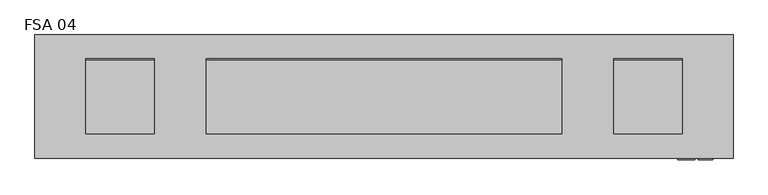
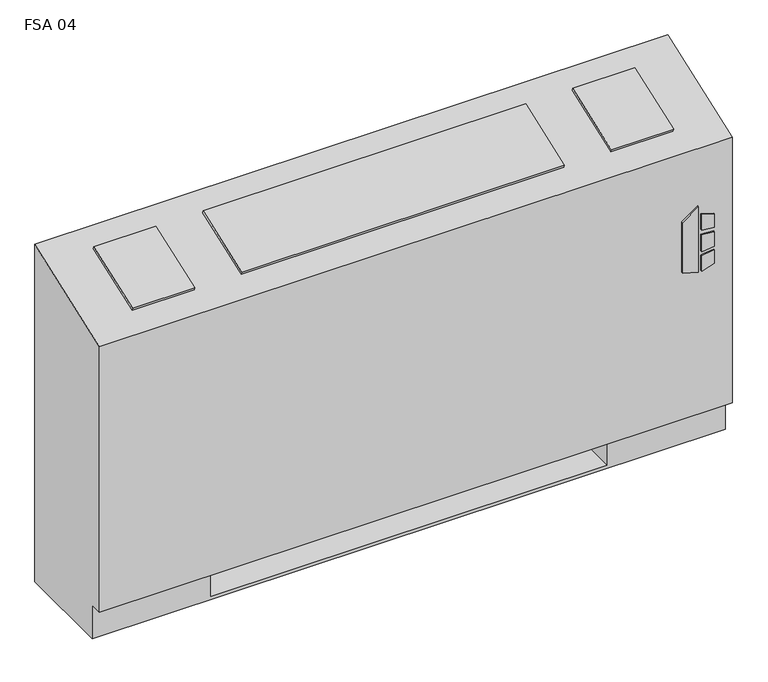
"""IFC4 building model written with IfcOpenShell, lengths in millimetres: proxy geometry, Vertical_Fan_Coil_Unit_-_FSA_-_IEC_-_4-Pipe_TS-FR_RH_2022 : FSA 04."""

import ifcopenshell
import ifcopenshell.guid

model = None  # the IFC model being written
_history = None  # IfcOwnerHistory: only IFC2X3 demands one
_inside = {}  # id of a spatial element -> (the spatial element, [elements in it])
_under = {}  # id of a project, library or spatial element -> (it, [spatial elements below it])
_declared = {}  # id of a project -> (the project, [libraries it declares])
_typed = {}  # id of a type object -> (the type object, [elements of that type])
_made_of = {}  # id of a material, layer set ... -> (it, [elements and type objects made of it])


def new_model(schema):
    """Start an empty IFC model of exactly this schema.

    Asked for "IFC4X3", IfcOpenShell would pick the latest addendum, in which some entities
    have other attributes; the version numbers below select the first issue.
    IFC2X3 requires an IfcOwnerHistory on every rooted entity: one is made here for all.
    """
    global model, _history
    if schema == "IFC4X3":
        model = ifcopenshell.file(schema_version=(4, 3, 0, 0))
    else:
        model = ifcopenshell.file(schema=schema)
    _inside.clear()
    _under.clear()
    _declared.clear()
    _typed.clear()
    _made_of.clear()
    _history = None
    if model.schema == "IFC2X3":
        org = make("IfcOrganization", Name="unknown")
        user = make(
            "IfcPersonAndOrganization",
            ThePerson=make("IfcPerson", FamilyName="unknown"),
            TheOrganization=org,
        )
        app = make(
            "IfcApplication",
            ApplicationDeveloper=org,
            Version="unknown",
            ApplicationFullName="unknown",
            ApplicationIdentifier="unknown",
        )
        _history = make(
            "IfcOwnerHistory",
            OwningUser=user,
            OwningApplication=app,
            ChangeAction="ADDED",
            CreationDate=0,
        )
    return model


def make(cls, **values):
    """One entity of the class cls with the attributes given. An attribute that is None is left unset."""
    return model.create_entity(
        cls, **{name: value for name, value in values.items() if value is not None}
    )


def rooted(cls, **values):
    """An entity with a GlobalId (a new one), such as an element, a storey or a relation."""
    return make(cls, GlobalId=ifcopenshell.guid.new(), OwnerHistory=_history, **values)


def si_unit(unit_type, name, prefix=None):
    """IfcSIUnit, for example si_unit("LENGTHUNIT", "METRE", prefix="MILLI")."""
    return make("IfcSIUnit", UnitType=unit_type, Prefix=prefix, Name=name)


def assignment(units):
    """IfcUnitAssignment: the units of a project."""
    return None if units is None else make("IfcUnitAssignment", Units=units)


def point(xyz):
    """IfcCartesianPoint."""
    return None if xyz is None else make("IfcCartesianPoint", Coordinates=xyz)


def direction(xyz):
    """IfcDirection."""
    return None if xyz is None else make("IfcDirection", DirectionRatios=xyz)


def frame(location, z_axis=None, x_axis=None):
    """IfcAxis2Placement3D, a coordinate frame: its origin and axes. An axis left out is left unset."""
    return make(
        "IfcAxis2Placement3D",
        Location=point(location),
        Axis=direction(z_axis),
        RefDirection=direction(x_axis),
    )


def frame_2d(location, x_axis=None):
    """IfcAxis2Placement2D, a coordinate frame in the plane: its origin and x axis."""
    return make(
        "IfcAxis2Placement2D", Location=point(location), RefDirection=direction(x_axis)
    )


def origin():
    """The frame at (0, 0, 0) with its axes left unset."""
    return frame((0.0, 0.0, 0.0))


def place(relative_to, where):
    """IfcLocalPlacement: puts the frame where relative to a parent placement (None: the world)."""
    return make(
        "IfcLocalPlacement", PlacementRelTo=relative_to, RelativePlacement=where
    )


def context(
    kind, dimensions, precision=None, world=None, true_north=None, identifier=None
):
    """IfcGeometricRepresentationContext, for example the 3D "Model" context."""
    return make(
        "IfcGeometricRepresentationContext",
        ContextIdentifier=identifier,
        ContextType=kind,
        CoordinateSpaceDimension=dimensions,
        Precision=precision,
        WorldCoordinateSystem=world,
        TrueNorth=true_north,
    )


def project(units=None, contexts=None):
    """IfcProject with its units and contexts."""
    return rooted(
        "IfcProject",
        Name="project",
        RepresentationContexts=contexts,
        UnitsInContext=assignment(units),
    )


def spatial(cls, under=None, at=None, **own):
    """A site, building, storey or space (cls), placed at a placement, below another one or the project."""
    s = rooted(cls, ObjectPlacement=at, **own)
    if under is not None:
        _under.setdefault(under.id(), (under, []))[1].append(s)
    return s


def polyline(points):
    """IfcPolyline through the points."""
    return make("IfcPolyline", Points=[point(p) for p in points])


def circle_curve(where, radius):
    """IfcCircle in the frame where."""
    return make("IfcCircle", Position=where, Radius=radius)


def trimmed(basis, trim1, trim2, sense, master):
    """IfcTrimmedCurve: the piece of a basis curve between two trims."""
    return make(
        "IfcTrimmedCurve",
        BasisCurve=basis,
        Trim1=trim1,
        Trim2=trim2,
        SenseAgreement=sense,
        MasterRepresentation=master,
    )


def segment(curve, same_sense, transition):
    """IfcCompositeCurveSegment."""
    return make(
        "IfcCompositeCurveSegment",
        Transition=transition,
        SameSense=same_sense,
        ParentCurve=curve,
    )


def composite_curve(segments, self_intersect=None):
    """IfcCompositeCurve: segments joined end to end."""
    return make("IfcCompositeCurve", Segments=segments, SelfIntersect=self_intersect)


def outline(outer, holes=None, kind="AREA"):
    """IfcArbitraryClosedProfileDef: a profile drawn as a closed curve; with holes, ...WithVoids."""
    if holes is None:
        return make("IfcArbitraryClosedProfileDef", ProfileType=kind, OuterCurve=outer)
    return make(
        "IfcArbitraryProfileDefWithVoids",
        ProfileType=kind,
        OuterCurve=outer,
        InnerCurves=holes,
    )


def extrude(swept, where, along, depth):
    """IfcExtrudedAreaSolid: the profile swept, set in the frame where, extruded along a direction by depth."""
    return make(
        "IfcExtrudedAreaSolid",
        SweptArea=swept,
        Position=where,
        ExtrudedDirection=direction(along),
        Depth=depth,
    )


def shape(context_of_items, identifier, shape_type, items):
    """IfcShapeRepresentation: the items that make up one representation, for example the "Body"."""
    return make(
        "IfcShapeRepresentation",
        ContextOfItems=context_of_items,
        RepresentationIdentifier=identifier,
        RepresentationType=shape_type,
        Items=items,
    )


def source(mapping_origin, context_of_items, identifier, shape_type, items):
    """IfcRepresentationMap: a shape defined once, which mapped items show again and again."""
    return make(
        "IfcRepresentationMap",
        MappingOrigin=mapping_origin,
        MappedRepresentation=shape(context_of_items, identifier, shape_type, items),
    )


def transform(
    local_origin,
    x_axis=None,
    y_axis=None,
    z_axis=None,
    scale=None,
    scale2=None,
    scale3=None,
    uniform=True,
):
    """IfcCartesianTransformationOperator3D, or its non-uniform kind. x_axis, y_axis, z_axis: its Axis1, 2, 3."""
    if uniform:
        return make(
            "IfcCartesianTransformationOperator3D",
            Axis1=direction(x_axis),
            Axis2=direction(y_axis),
            LocalOrigin=point(local_origin),
            Scale=scale,
            Axis3=direction(z_axis),
        )
    return make(
        "IfcCartesianTransformationOperator3DnonUniform",
        Axis1=direction(x_axis),
        Axis2=direction(y_axis),
        LocalOrigin=point(local_origin),
        Scale=scale,
        Axis3=direction(z_axis),
        Scale2=scale2,
        Scale3=scale3,
    )


def mapped(mapping_source, mapping_target):
    """IfcMappedItem: shows the shape of a source again, moved by a transform."""
    return make(
        "IfcMappedItem", MappingSource=mapping_source, MappingTarget=mapping_target
    )


def made_of(thing, what):
    """Note that an element or type object is made of a material, layer set ...; save() writes the relation."""
    if what is not None:
        _made_of.setdefault(what.id(), (what, []))[1].append(thing)
    return thing


def element(
    cls,
    number,
    at=None,
    inside=None,
    cuts=None,
    type_object=None,
    material=None,
    context=None,
    identifier="Body",
    shape_type=None,
    held_by="IfcProductDefinitionShape",
    body=None,
    shapes=None,
    **own,
):
    """One element of the class cls, such as IfcWall. Its Tag is "e" and its number.

    at: its placement. inside: the storey or other place that contains it. cuts: it is an
    opening in that element (IfcRelVoidsElement). A single representation is given by context,
    identifier, shape_type and body (its items); several are given by shapes. held_by: the class
    of the entity that holds the representations. save() writes the other relations.
    """
    e = rooted(cls, Tag="e%d" % number, ObjectPlacement=at, **own)
    if body is not None:
        shapes = [shape(context, identifier, shape_type, body)]
    if shapes is not None:
        e.Representation = make(held_by, Representations=shapes)
    if inside is not None:
        _inside.setdefault(inside.id(), (inside, []))[1].append(e)
    if cuts is not None:
        rooted(
            "IfcRelVoidsElement", RelatingBuildingElement=cuts, RelatedOpeningElement=e
        )
    if type_object is not None:
        _typed.setdefault(type_object.id(), (type_object, []))[1].append(e)
    return made_of(e, material)


def aggregate(whole, parts):
    """IfcRelAggregates: a whole, such as a stair, and the parts it consists of."""
    return rooted("IfcRelAggregates", RelatingObject=whole, RelatedObjects=parts)


def save(model, path):
    """Write the relations noted so far, then the file.

    IfcRelAggregates (storeys below a building ...), IfcRelContainedInSpatialStructure (elements
    in a storey), IfcRelDefinesByType, IfcRelAssociatesMaterial and IfcRelDeclares: one each for
    every whole, place, type object, material and project.
    """
    for whole, parts in _under.values():
        aggregate(whole, parts)
    for where, things in _inside.values():
        rooted(
            "IfcRelContainedInSpatialStructure",
            RelatedElements=things,
            RelatingStructure=where,
        )
    for kind, things in _typed.values():
        rooted("IfcRelDefinesByType", RelatedObjects=things, RelatingType=kind)
    for what, things in _made_of.values():
        rooted("IfcRelAssociatesMaterial", RelatedObjects=things, RelatingMaterial=what)
    for by, libraries in _declared.values():
        rooted("IfcRelDeclares", RelatingContext=by, RelatedDefinitions=libraries)
    model.write(path)


def plane_surface(at):
    """IfcPlane: the flat surface through the origin of the frame at, square to its z axis."""
    return make("IfcPlane", Position=at)


def revolved_surface(curve, axis_point, axis_direction):
    """IfcSurfaceOfRevolution: the curve turned about the line through axis_point along axis_direction."""
    return make(
        "IfcSurfaceOfRevolution",
        SweptCurve=make("IfcArbitraryOpenProfileDef", ProfileType="CURVE", Curve=curve),
        AxisPosition=make("IfcAxis1Placement", Location=point(axis_point), Axis=direction(axis_direction)),
    )


def advanced_brep(points, edges, surfaces, faces):
    """IfcAdvancedBrep: a solid bounded by faces that lie on surfaces and meet in shared edges.

    An edge is (start, end): straight between two places in points (the first is 0);
    or (start, end, curve); or (start, end, curve, False) where it runs against its curve.
    A face is (place in surfaces, loops), or (place, loops, False) where it looks against
    its surface's normal. A loop lists edges by number (the first is 1), with a minus sign
    where the edge is run from its end to its start. The first loop is the outer one.
    """
    corners = [point(p) for p in points]
    vertices = [make("IfcVertexPoint", VertexGeometry=c) for c in corners]
    made = []
    for start, end, *more in edges:
        made.append(
            make(
                "IfcEdgeCurve",
                EdgeStart=vertices[start],
                EdgeEnd=vertices[end],
                EdgeGeometry=more[0] if more else make("IfcPolyline", Points=[corners[start], corners[end]]),
                SameSense=more[1] if len(more) > 1 else True,
            )
        )
    hull = []
    for where, loops, *sense in faces:
        bounds = []
        for j, loop in enumerate(loops):
            ring = [make("IfcOrientedEdge", EdgeElement=made[abs(k) - 1], Orientation=k > 0) for k in loop]
            bounds.append(
                make(
                    "IfcFaceOuterBound" if j == 0 else "IfcFaceBound",
                    Bound=make("IfcEdgeLoop", EdgeList=ring),
                    Orientation=True,
                )
            )
        hull.append(make("IfcAdvancedFace", Bounds=bounds, FaceSurface=surfaces[where], SameSense=sense[0] if sense else True))
    return make("IfcAdvancedBrep", Outer=make("IfcClosedShell", CfsFaces=hull))


def fsa_04_2e9a2c6c(model_context):
    return source(origin(), model_context, "Body", "SolidModel", [
        extrude(outline(polyline([(391.6086829, 696.9868862), (381.6606126, 729.1602728), (523.831537, 729.1602728), (500.8095309, 696.9868862), (391.6086829, 696.9868862)])), frame((0.0, 12.7, 0.0), z_axis=(0.0, 1.0, 0.0), x_axis=(0.0, 0.0, 1.0)), (0.0, 0.0, 1.0), 3.175),
        extrude(outline(polyline([(470.6079683, 735.9186058), (467.4055757, 762.0), (496.6344168, 762.0), (504.6988318, 735.9186058), (470.6079683, 735.9186058)])), frame((0.0, 12.7, 0.0), z_axis=(0.0, 1.0, 0.0), x_axis=(0.0, 0.0, 1.0)), (0.0, 0.0, 1.0), 3.175),
        extrude(outline(polyline([(418.7444414, 762.0), (415.0789404, 735.9186058), (381.6606126, 735.9186058), (390.2948498, 762.0), (418.7444414, 762.0)])), frame((0.0, 12.7, 0.0), z_axis=(0.0, 1.0, 0.0), x_axis=(0.0, 0.0, 1.0)), (0.0, 0.0, 1.0), 3.175),
        extrude(outline(polyline([(458.0596028, 762.0), (460.3414292, 735.9186058), (424.4038806, 735.9186058), (427.1451456, 762.0), (458.0596028, 762.0)])), frame((0.0, 12.7, 0.0), z_axis=(0.0, 1.0, 0.0), x_axis=(0.0, 0.0, 1.0)), (0.0, 0.0, 1.0), 3.175),
        extrude(outline(polyline([(-374.65, 81.534), (-374.65, 223.266), (-254.0, 223.266), (-254.0, 81.534), (-374.65, 81.534)])), frame((0.0, 0.0, 327.025), z_axis=(0.0, 0.0, 1.0), x_axis=(1.0, 0.0, 0.0)), (0.0, 0.0, 1.0), 260.35),
        extrude(outline(composite_curve([segment(trimmed(circle_curve(frame_2d((622.3, 130.175)), 9.525), [point((612.775, 130.175))], [point((631.825, 130.175))], False, "CARTESIAN"), True, "CONTINUOUS"), segment(trimmed(circle_curve(frame_2d((622.3, 130.175)), 9.525), [point((631.825, 130.175))], [point((612.775, 130.175))], False, "CARTESIAN"), True, "CONTINUOUS")], self_intersect=False)), frame((0.0, 0.0, 101.6), z_axis=(0.0, 0.0, 1.0), x_axis=(1.0, 0.0, 0.0)), (0.0, 0.0, 1.0), 25.4),
        extrude(outline(polyline([(723.9, 196.85), (723.9, 63.5), (558.8, 63.5), (558.8, 196.85), (723.9, 196.85)])), frame((0.0, 0.0, 127.0), z_axis=(0.0, 0.0, 1.0), x_axis=(1.0, 0.0, 0.0)), (0.0, 0.0, 1.0), 50.8),
        extrude(outline(polyline([(0.0, -146.0500001), (0.0, 0.0), (127.0, 0.0), (127.0, -146.0500001), (0.0, -146.0500001)])), frame((-401.193, 200.4217127, 714.3418685), z_axis=(0.0, -0.3396444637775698, 0.9405538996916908), x_axis=(1.0, 0.0, 0.0)), (0.0, 0.0, 1.0), 6.35),
        extrude(outline(polyline([(0.0, -146.0500001), (0.0, 0.0), (660.4, 0.0), (660.4, -146.0500001), (0.0, -146.0500001)])), frame((482.6, 63.0538156, 664.7367945), z_axis=(0.0, -0.33964446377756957, 0.9405538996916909), x_axis=(-1.0, 0.0, 0.0)), (0.0, 0.0, 1.0), 6.35),
        extrude(outline(polyline([(0.0, -146.0500001), (0.0, 0.0), (127.0, 0.0), (127.0, -146.0500001), (0.0, -146.0500001)])), frame((705.993, 63.0538156, 664.7367945), z_axis=(0.0, -0.3396444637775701, 0.9405538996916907), x_axis=(-1.0, 0.0, 0.0)), (0.0, 0.0, 1.0), 6.35),
        extrude(outline(composite_curve([segment(trimmed(circle_curve(frame_2d((117.475, 472.44)), 7.9375), [point((117.475, 480.3775))], [point((117.475, 464.5025))], False, "CARTESIAN"), True, "CONTINUOUS"), segment(trimmed(circle_curve(frame_2d((117.475, 472.44)), 7.9375), [point((117.475, 464.5025))], [point((117.475, 480.3775))], False, "CARTESIAN"), True, "CONTINUOUS")], self_intersect=False)), frame((558.8, 0.0, 0.0), z_axis=(1.0, 0.0, 0.0), x_axis=(0.0, 1.0, 0.0)), (0.0, 0.0, 1.0), 50.8),
        extrude(outline(composite_curve([segment(trimmed(circle_curve(frame_2d((164.0586, 445.897)), 7.9375), [point((164.0586, 453.8345))], [point((164.0586, 437.9595))], False, "CARTESIAN"), True, "CONTINUOUS"), segment(trimmed(circle_curve(frame_2d((164.0586, 445.897)), 7.9375), [point((164.0586, 437.9595))], [point((164.0586, 453.8345))], False, "CARTESIAN"), True, "CONTINUOUS")], self_intersect=False)), frame((558.8, 0.0, 0.0), z_axis=(1.0, 0.0, 0.0), x_axis=(0.0, 1.0, 0.0)), (0.0, 0.0, 1.0), 50.8),
        extrude(outline(composite_curve([segment(trimmed(circle_curve(frame_2d((130.175, 554.99)), 7.9502), [point((130.175, 562.9402))], [point((130.175, 547.0398))], False, "CARTESIAN"), True, "CONTINUOUS"), segment(trimmed(circle_curve(frame_2d((130.175, 554.99)), 7.9502), [point((130.175, 547.0398))], [point((130.175, 562.9402))], False, "CARTESIAN"), True, "CONTINUOUS")], self_intersect=False)), frame((558.8, 0.0, 0.0), z_axis=(1.0, 0.0, 0.0), x_axis=(0.0, 1.0, 0.0)), (0.0, 0.0, 1.0), 50.8),
        extrude(outline(composite_curve([segment(trimmed(circle_curve(frame_2d((53.975, 416.56)), 7.9502), [point((53.975, 424.5102))], [point((53.975, 408.6098))], False, "CARTESIAN"), True, "CONTINUOUS"), segment(trimmed(circle_curve(frame_2d((53.975, 416.56)), 7.9502), [point((53.975, 408.6098))], [point((53.975, 424.5102))], False, "CARTESIAN"), True, "CONTINUOUS")], self_intersect=False)), frame((558.8, 0.0, 0.0), z_axis=(1.0, 0.0, 0.0), x_axis=(0.0, 1.0, 0.0)), (0.0, 0.0, 1.0), 50.8),
        advanced_brep(
        [(-495.3, 244.475, 0.0), (800.1, 244.475, 0.0), (800.1, 41.275, 0.0), (-495.3, 41.275, 0.0), (-495.3, 244.475, 730.25), (800.1, 244.475, 730.25), (558.8, 244.475, 73.025), (787.4, 244.475, 73.025), (787.4, 244.475, 654.05), (558.8, 244.475, 654.05), (558.8, 244.475, 414.8650565), (587.375, 244.475, 414.8650565), (587.375, 244.475, 385.2349435), (558.8, 244.475, 385.2349435), (558.8, 244.475, 287.3375), (587.375, 244.475, 287.3375), (587.375, 244.475, 258.7625), (558.8, 244.475, 258.7625), (558.8, 244.475, 141.2875), (587.375, 244.475, 141.2875), (587.375, 244.475, 112.7125), (558.8, 244.475, 112.7125), (-254.0, 244.475, 654.05), (-482.6, 244.475, 654.05), (-482.6, 244.475, 73.025), (-254.0, 244.475, 73.025), (-254.0, 244.475, 112.7125), (-282.575, 244.475, 112.7125), (-282.575, 244.475, 141.2875), (-254.0, 244.475, 141.2875), (-254.0, 244.475, 258.7625), (-282.575, 244.475, 258.7625), (-282.575, 244.475, 287.3375), (-254.0, 244.475, 287.3375), (-254.0, 244.475, 385.2349435), (-282.575, 244.475, 385.2349435), (-282.575, 244.475, 414.8650565), (-254.0, 244.475, 414.8650565), (577.0626, 244.475, 127.0), (565.9374, 244.475, 127.0), (577.0626, 244.475, 400.05), (565.9374, 244.475, 400.05), (577.0626, 244.475, 273.05), (565.9374, 244.475, 273.05), (-261.1374, 244.475, 127.0), (-272.2626, 244.475, 127.0), (-261.1374, 244.475, 273.05), (-272.2626, 244.475, 273.05), (-261.1374, 244.475, 400.05), (-272.2626, 244.475, 400.05), (-495.3, 41.275, 73.025), (-495.3, 15.875, 73.025), (-495.3, 15.875, 647.7), (800.1, 15.875, 73.025), (800.1, 15.875, 647.7), (800.1, 41.275, 73.025), (-254.0, 41.275, 73.025), (-254.0, 225.425, 73.025), (558.8, 225.425, 73.025), (558.8, 41.275, 73.025), (558.8, 41.275, 6.35), (-254.0, 41.275, 6.35), (558.8, 41.275, 654.05), (787.4, 41.275, 654.05), (787.4, 41.275, 73.025), (558.8, 41.275, 73.025), (-254.0, 41.275, 654.05), (-254.0, 41.275, 73.025), (-482.6, 41.275, 73.025), (-482.6, 41.275, 654.05), (558.8, 225.425, 73.025), (558.8, 238.125, 112.7125), (558.8, 238.125, 141.2875), (558.8, 238.125, 258.7625), (558.8, 238.125, 287.3375), (558.8, 238.125, 385.2349435), (558.8, 238.125, 414.8650565), (-254.0, 225.425, 73.025), (-254.0, 238.125, 414.8650565), (-254.0, 238.125, 385.2349435), (-254.0, 238.125, 287.3375), (-254.0, 238.125, 258.7625), (-254.0, 238.125, 141.2875), (-254.0, 238.125, 112.7125), (-254.0, 225.425, 6.35), (558.8, 225.425, 6.35), (587.375, 238.125, 112.7125), (587.375, 238.125, 141.2875), (565.9374, 238.125, 127.0), (577.0626, 238.125, 127.0), (587.375, 238.125, 258.7625), (587.375, 238.125, 287.3375), (565.9374, 238.125, 273.05), (577.0626, 238.125, 273.05), (587.375, 238.125, 385.2349435), (587.375, 238.125, 414.8650565), (565.9374, 238.125, 400.05), (577.0626, 238.125, 400.05), (-282.575, 238.125, 141.2875), (-282.575, 238.125, 112.7125), (-272.2626, 238.125, 127.0), (-261.1374, 238.125, 127.0), (-282.575, 238.125, 287.3375), (-282.575, 238.125, 258.7625), (-272.2626, 238.125, 273.05), (-261.1374, 238.125, 273.05), (-282.575, 238.125, 414.8650565), (-282.575, 238.125, 385.2349435), (-272.2626, 238.125, 400.05), (-261.1374, 238.125, 400.05)],
        [
            (0, 1),
            (1, 2),
            (2, 3),
            (3, 0),
            (0, 4),
            (4, 5),
            (5, 1),
            (6, 7),
            (7, 8),
            (8, 9),
            (9, 10),
            (10, 11),
            (11, 12),
            (12, 13),
            (13, 14),
            (14, 15),
            (15, 16),
            (16, 17),
            (17, 18),
            (18, 19),
            (19, 20),
            (20, 21),
            (21, 6),
            (22, 23),
            (23, 24),
            (24, 25),
            (25, 26),
            (26, 27),
            (27, 28),
            (28, 29),
            (29, 30),
            (30, 31),
            (31, 32),
            (32, 33),
            (33, 34),
            (34, 35),
            (35, 36),
            (36, 37),
            (37, 22),
            (38, 39, circle_curve(frame((571.5, 244.475, 127.0), z_axis=(0.0, -1.0, 0.0), x_axis=(-1.0, 0.0, 0.0)), 5.5626)),
            (39, 38, circle_curve(frame((571.5, 244.475, 127.0), z_axis=(0.0, -1.0, 0.0), x_axis=(-1.0, 0.0, 0.0)), 5.5626)),
            (40, 41, circle_curve(frame((571.5, 244.475, 400.05), z_axis=(0.0, -1.0, 0.0), x_axis=(-1.0, 0.0, 0.0)), 5.5626)),
            (41, 40, circle_curve(frame((571.5, 244.475, 400.05), z_axis=(0.0, -1.0, 0.0), x_axis=(-1.0, 0.0, 0.0)), 5.5626)),
            (42, 43, circle_curve(frame((571.5, 244.475, 273.05), z_axis=(0.0, -1.0, 0.0), x_axis=(-1.0, 0.0, 0.0)), 5.5626)),
            (43, 42, circle_curve(frame((571.5, 244.475, 273.05), z_axis=(0.0, -1.0, 0.0), x_axis=(-1.0, 0.0, 0.0)), 5.5626)),
            (44, 45, circle_curve(frame((-266.7, 244.475, 127.0), z_axis=(0.0, -1.0, 0.0), x_axis=(-1.0, 0.0, 0.0)), 5.5626)),
            (45, 44, circle_curve(frame((-266.7, 244.475, 127.0), z_axis=(0.0, -1.0, 0.0), x_axis=(-1.0, 0.0, 0.0)), 5.5626)),
            (46, 47, circle_curve(frame((-266.7, 244.475, 273.05), z_axis=(0.0, -1.0, 0.0), x_axis=(-1.0, 0.0, 0.0)), 5.5626)),
            (47, 46, circle_curve(frame((-266.7, 244.475, 273.05), z_axis=(0.0, -1.0, 0.0), x_axis=(-1.0, 0.0, 0.0)), 5.5626)),
            (48, 49, circle_curve(frame((-266.7, 244.475, 400.05), z_axis=(0.0, -1.0, 0.0), x_axis=(-1.0, 0.0, 0.0)), 5.5626)),
            (49, 48, circle_curve(frame((-266.7, 244.475, 400.05), z_axis=(0.0, -1.0, 0.0), x_axis=(-1.0, 0.0, 0.0)), 5.5626)),
            (3, 50),
            (50, 51),
            (51, 52),
            (52, 4),
            (51, 53),
            (53, 54),
            (54, 52),
            (5, 54),
            (53, 55),
            (55, 2),
            (50, 56),
            (56, 57),
            (57, 58),
            (58, 59),
            (59, 55),
            (59, 60),
            (60, 61),
            (61, 56),
            (62, 63),
            (63, 64),
            (64, 65),
            (65, 62),
            (66, 67),
            (67, 68),
            (68, 69),
            (69, 66),
            (65, 70),
            (70, 6),
            (21, 71),
            (71, 72),
            (72, 18),
            (17, 73),
            (73, 74),
            (74, 14),
            (13, 75),
            (75, 76),
            (76, 10),
            (9, 62),
            (64, 7),
            (63, 8),
            (69, 23),
            (22, 66),
            (68, 24),
            (67, 77),
            (77, 25),
            (37, 78),
            (78, 79),
            (79, 34),
            (33, 80),
            (80, 81),
            (81, 30),
            (29, 82),
            (82, 83),
            (83, 26),
            (57, 84),
            (84, 85),
            (85, 58),
            (85, 60),
            (84, 61),
            (71, 86),
            (86, 87),
            (87, 72),
            (88, 89, circle_curve(frame((571.5, 238.125, 127.0), z_axis=(0.0, 1.0, 0.0), x_axis=(-1.0, 0.0, 0.0)), 5.5626)),
            (89, 88, circle_curve(frame((571.5, 238.125, 127.0), z_axis=(0.0, 1.0, 0.0), x_axis=(-1.0, 0.0, 0.0)), 5.5626)),
            (73, 90),
            (90, 91),
            (91, 74),
            (92, 93, circle_curve(frame((571.5, 238.125, 273.05), z_axis=(0.0, 1.0, 0.0), x_axis=(-1.0, 0.0, 0.0)), 5.5626)),
            (93, 92, circle_curve(frame((571.5, 238.125, 273.05), z_axis=(0.0, 1.0, 0.0), x_axis=(-1.0, 0.0, 0.0)), 5.5626)),
            (75, 94),
            (94, 95),
            (95, 76),
            (96, 97, circle_curve(frame((571.5, 238.125, 400.05), z_axis=(0.0, 1.0, 0.0), x_axis=(-1.0, 0.0, 0.0)), 5.5626)),
            (97, 96, circle_curve(frame((571.5, 238.125, 400.05), z_axis=(0.0, 1.0, 0.0), x_axis=(-1.0, 0.0, 0.0)), 5.5626)),
            (98, 99),
            (99, 83),
            (82, 98),
            (100, 101, circle_curve(frame((-266.7, 238.125, 127.0), z_axis=(0.0, 1.0, 0.0), x_axis=(-1.0, 0.0, 0.0)), 5.5626)),
            (101, 100, circle_curve(frame((-266.7, 238.125, 127.0), z_axis=(0.0, 1.0, 0.0), x_axis=(-1.0, 0.0, 0.0)), 5.5626)),
            (102, 103),
            (103, 81),
            (80, 102),
            (104, 105, circle_curve(frame((-266.7, 238.125, 273.05), z_axis=(0.0, 1.0, 0.0), x_axis=(-1.0, 0.0, 0.0)), 5.5626)),
            (105, 104, circle_curve(frame((-266.7, 238.125, 273.05), z_axis=(0.0, 1.0, 0.0), x_axis=(-1.0, 0.0, 0.0)), 5.5626)),
            (106, 107),
            (107, 79),
            (78, 106),
            (108, 109, circle_curve(frame((-266.7, 238.125, 400.05), z_axis=(0.0, 1.0, 0.0), x_axis=(-1.0, 0.0, 0.0)), 5.5626)),
            (109, 108, circle_curve(frame((-266.7, 238.125, 400.05), z_axis=(0.0, 1.0, 0.0), x_axis=(-1.0, 0.0, 0.0)), 5.5626)),
            (87, 19),
            (86, 20),
            (91, 15),
            (90, 16),
            (95, 11),
            (94, 12),
            (28, 98),
            (99, 27),
            (32, 102),
            (103, 31),
            (36, 106),
            (107, 35),
            (88, 39),
            (38, 89),
            (96, 41),
            (40, 97),
            (92, 43),
            (42, 93),
            (100, 45),
            (44, 101),
            (104, 47),
            (46, 105),
            (108, 49),
            (48, 109),
        ],
        [
            plane_surface(frame((-495.3, 244.475, 0.0), z_axis=(0.0, 0.0, -1.0), x_axis=(1.0, 0.0, 0.0))),
            plane_surface(frame((800.1, 244.475, 730.25), z_axis=(0.0, 1.0, 0.0), x_axis=(0.0, 0.0, -1.0))),
            plane_surface(frame((-495.3, 244.475, 730.25), z_axis=(-1.0, 0.0, 0.0), x_axis=(0.0, 0.0, -1.0))),
            plane_surface(frame((-495.3, 15.875, 730.25), z_axis=(0.0, -1.0, 0.0), x_axis=(0.0, 0.0, -1.0))),
            plane_surface(frame((800.1, 15.875, 730.25), z_axis=(1.0, 0.0, 0.0), x_axis=(0.0, 0.0, -1.0))),
            plane_surface(frame((-495.3, 15.875, 73.025), z_axis=(0.0, 0.0, -1.0), x_axis=(1.0, 0.0, 0.0))),
            plane_surface(frame((-495.3, 41.275, 73.025), z_axis=(0.0, -1.0, 0.0), x_axis=(1.0, 0.0, 0.0))),
            plane_surface(frame((558.8, 41.275, 654.05), z_axis=(0.0, 1.0, 0.0), x_axis=(0.0, 0.0, -1.0))),
            plane_surface(frame((558.8, 41.275, 654.05), z_axis=(1.0, 0.0, 0.0), x_axis=(0.0, 1.0, 0.0))),
            plane_surface(frame((558.8, 41.275, 73.025), z_axis=(0.0, 0.0, 1.0), x_axis=(0.0, 1.0, 0.0))),
            plane_surface(frame((787.4, 41.275, 73.025), z_axis=(-1.0, 0.0, 0.0), x_axis=(0.0, 1.0, 0.0))),
            plane_surface(frame((787.4, 41.275, 654.05), z_axis=(0.0, 0.0, -1.0), x_axis=(0.0, 1.0, 0.0))),
            plane_surface(frame((-254.0, 41.275, 654.05), z_axis=(0.0, 0.0, -1.0), x_axis=(0.0, 1.0, 0.0))),
            plane_surface(frame((-482.6, 41.275, 654.05), z_axis=(1.0, 0.0, 0.0), x_axis=(0.0, 1.0, 0.0))),
            plane_surface(frame((-482.6, 41.275, 73.025), z_axis=(0.0, 0.0, 1.0), x_axis=(0.0, 1.0, 0.0))),
            plane_surface(frame((-254.0, 41.275, 73.025), z_axis=(-1.0, 0.0, 0.0), x_axis=(0.0, 1.0, 0.0))),
            plane_surface(frame((558.8, 225.425, 73.025), z_axis=(0.0, -1.0, 0.0), x_axis=(0.0, 0.0, -1.0))),
            plane_surface(frame((558.8, 225.425, 73.025), z_axis=(-1.0, 0.0, 0.0), x_axis=(0.0, -1.0, 0.0))),
            plane_surface(frame((558.8, 225.425, 6.35), z_axis=(0.0, 0.0, 1.0), x_axis=(0.0, -1.0, 0.0))),
            plane_surface(frame((-254.0, 225.425, 6.35), z_axis=(1.0, 0.0, 0.0), x_axis=(0.0, -1.0, 0.0))),
            plane_surface(frame((587.375, 238.125, 141.2875), z_axis=(0.0, -1.0, 0.0), x_axis=(-1.0, 0.0, 0.0))),
            plane_surface(frame((558.8, 244.475, 141.2875), z_axis=(0.0, 0.0, 1.0), x_axis=(0.0, -1.0, 0.0))),
            plane_surface(frame((587.375, 244.475, 141.2875), z_axis=(1.0, 0.0, 0.0), x_axis=(0.0, -1.0, 0.0))),
            plane_surface(frame((587.375, 244.475, 112.7125), z_axis=(0.0, 0.0, -1.0), x_axis=(0.0, -1.0, 0.0))),
            plane_surface(frame((558.8, 244.475, 287.3375), z_axis=(0.0, 0.0, 1.0), x_axis=(0.0, -1.0, 0.0))),
            plane_surface(frame((587.375, 244.475, 287.3375), z_axis=(1.0, 0.0, 0.0), x_axis=(0.0, -1.0, 0.0))),
            plane_surface(frame((587.375, 244.475, 258.7625), z_axis=(0.0, 0.0, -1.0), x_axis=(0.0, -1.0, 0.0))),
            plane_surface(frame((558.8, 244.475, 414.8650565), z_axis=(0.0, 0.0, 1.0), x_axis=(0.0, -1.0, 0.0))),
            plane_surface(frame((587.375, 244.475, 414.8650565), z_axis=(1.0, 0.0, 0.0), x_axis=(0.0, -1.0, 0.0))),
            plane_surface(frame((587.375, 244.475, 385.2349435), z_axis=(0.0, 0.0, -1.0), x_axis=(0.0, -1.0, 0.0))),
            plane_surface(frame((-282.575, 244.475, 141.2875), z_axis=(0.0, 0.0, 1.0), x_axis=(0.0, -1.0, 0.0))),
            plane_surface(frame((-254.0, 244.475, 112.7125), z_axis=(0.0, 0.0, -1.0), x_axis=(0.0, -1.0, 0.0))),
            plane_surface(frame((-282.575, 244.475, 112.7125), z_axis=(-1.0, 0.0, 0.0), x_axis=(0.0, -1.0, 0.0))),
            plane_surface(frame((-282.575, 244.475, 287.3375), z_axis=(0.0, 0.0, 1.0), x_axis=(0.0, -1.0, 0.0))),
            plane_surface(frame((-254.0, 244.475, 258.7625), z_axis=(0.0, 0.0, -1.0), x_axis=(0.0, -1.0, 0.0))),
            plane_surface(frame((-282.575, 244.475, 258.7625), z_axis=(-1.0, 0.0, 0.0), x_axis=(0.0, -1.0, 0.0))),
            plane_surface(frame((-282.575, 244.475, 414.8650565), z_axis=(0.0, 0.0, 1.0), x_axis=(0.0, -1.0, 0.0))),
            plane_surface(frame((-254.0, 244.475, 385.2349435), z_axis=(0.0, 0.0, -1.0), x_axis=(0.0, -1.0, 0.0))),
            plane_surface(frame((-282.575, 244.475, 385.2349435), z_axis=(-1.0, 0.0, 0.0), x_axis=(0.0, -1.0, 0.0))),
            revolved_surface(polyline([(565.9374, 238.125, 127.0), (565.9374, 244.475, 127.0)]), (571.5, 244.475, 127.0), (0.0, -1.0, 0.0)),
            revolved_surface(polyline([(565.9374, 238.125, 400.05), (565.9374, 244.475, 400.05)]), (571.5, 244.475, 400.05), (0.0, -1.0, 0.0)),
            revolved_surface(polyline([(565.9374, 238.125, 273.05), (565.9374, 244.475, 273.05)]), (571.5, 244.475, 273.05), (0.0, -1.0, 0.0)),
            revolved_surface(polyline([(-272.26259999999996, 238.125, 127.0), (-272.26259999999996, 244.475, 127.0)]), (-266.7, 244.475, 127.0), (0.0, -1.0, 0.0)),
            revolved_surface(polyline([(-272.26259999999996, 238.125, 273.05), (-272.26259999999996, 244.475, 273.05)]), (-266.7, 244.475, 273.05), (0.0, -1.0, 0.0)),
            revolved_surface(polyline([(-272.26259999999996, 238.125, 400.05), (-272.26259999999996, 244.475, 400.05)]), (-266.7, 244.475, 400.05), (0.0, -1.0, 0.0)),
            plane_surface(frame((-495.3, 244.475, 730.25), z_axis=(0.0, -0.33964446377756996, 0.9405538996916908), x_axis=(1.0, 0.0, 0.0))),
        ],
        [
            (0, [[1, 2, 3, 4]]),
            (1, [[-1, 5, 6, 7], [8, 9, 10, 11, 12, 13, 14, 15, 16, 17, 18, 19, 20, 21, 22, 23], [24, 25, 26, 27, 28, 29, 30, 31, 32, 33, 34, 35, 36, 37, 38, 39], [40, 41], [42, 43], [44, 45], [46, 47], [48, 49], [50, 51]]),
            (2, [[-5, -4, 52, 53, 54, 55]]),
            (3, [[56, 57, 58, -54]]),
            (4, [[-7, 59, -57, 60, 61, -2]]),
            (5, [[-53, 62, 63, 64, 65, 66, -60, -56]]),
            (6, [[-3, -61, -66, 67, 68, 69, -62, -52]]),
            (7, [[70, 71, 72, 73]]),
            (7, [[74, 75, 76, 77]]),
            (8, [[-73, 78, 79, -23, 80, 81, 82, -19, 83, 84, 85, -15, 86, 87, 88, -11, 89]]),
            (9, [[-72, 90, -8, -79, -78]]),
            (10, [[-71, 91, -9, -90]]),
            (11, [[-70, -89, -10, -91]]),
            (12, [[-77, 92, -24, 93]]),
            (13, [[-76, 94, -25, -92]]),
            (14, [[-75, 95, 96, -26, -94]]),
            (15, [[-74, -93, -39, 97, 98, 99, -35, 100, 101, 102, -31, 103, 104, 105, -27, -96, -95]]),
            (16, [[-64, 106, 107, 108]]),
            (17, [[-108, 109, -67, -65]]),
            (18, [[-107, 110, -68, -109]]),
            (19, [[-106, -63, -69, -110]]),
            (20, [[111, 112, 113, -81], [114, 115]]),
            (20, [[116, 117, 118, -84], [119, 120]]),
            (20, [[121, 122, 123, -87], [124, 125]]),
            (20, [[126, 127, -104, 128], [129, 130]]),
            (20, [[131, 132, -101, 133], [134, 135]]),
            (20, [[136, 137, -98, 138], [139, 140]]),
            (21, [[-113, 141, -20, -82]]),
            (22, [[-112, 142, -21, -141]]),
            (23, [[-111, -80, -22, -142]]),
            (24, [[-118, 143, -16, -85]]),
            (25, [[-117, 144, -17, -143]]),
            (26, [[-116, -83, -18, -144]]),
            (27, [[-123, 145, -12, -88]]),
            (28, [[-122, 146, -13, -145]]),
            (29, [[-121, -86, -14, -146]]),
            (30, [[-128, -103, -30, 147]]),
            (31, [[-127, 148, -28, -105]]),
            (32, [[-126, -147, -29, -148]]),
            (33, [[-133, -100, -34, 149]]),
            (34, [[-132, 150, -32, -102]]),
            (35, [[-131, -149, -33, -150]]),
            (36, [[-138, -97, -38, 151]]),
            (37, [[-137, 152, -36, -99]]),
            (38, [[-136, -151, -37, -152]]),
            (39, [[153, -40, 154, -114]]),
            (39, [[-153, -115, -154, -41]]),
            (40, [[155, -42, 156, -124]]),
            (40, [[-155, -125, -156, -43]]),
            (41, [[157, -44, 158, -119]]),
            (41, [[-157, -120, -158, -45]]),
            (42, [[159, -46, 160, -129]]),
            (42, [[-159, -130, -160, -47]]),
            (43, [[161, -48, 162, -134]]),
            (43, [[-161, -135, -162, -49]]),
            (44, [[163, -50, 164, -139]]),
            (44, [[-163, -140, -164, -51]]),
            (45, [[-6, -55, -58, -59]]),
        ],
    ),
    ])


if __name__ == "__main__":
    model = new_model("IFC4")
    model_context = context("Model", 3, world=origin())
    ifc_project = project(units=[si_unit("LENGTHUNIT", "METRE", prefix="MILLI")], contexts=[model_context])
    site = spatial("IfcSite", under=ifc_project)
    building = spatial("IfcBuilding", under=site)
    placement = place(None, origin())
    fsa_04_shape = fsa_04_2e9a2c6c(model_context)
    element("IfcBuildingElementProxy", 1, Name="Vertical_Fan_Coil_Unit_-_FSA_-_IEC_-_4-Pipe_TS-FR_RH_2022 : FSA 04", ObjectType="Vertical_Fan_Coil_Unit_-_FSA_-_IEC_-_4-Pipe_TS-FR_RH_2022 : FSA 04", at=placement, inside=building, context=model_context, shape_type="MappedRepresentation", body=[
        mapped(fsa_04_shape, transform((0.0, 0.0, 0.0), x_axis=(1.0, 0.0, 0.0), y_axis=(0.0, 1.0, 0.0), z_axis=(0.0, 0.0, 1.0))),
    ])
    save(model, "model.ifc")
